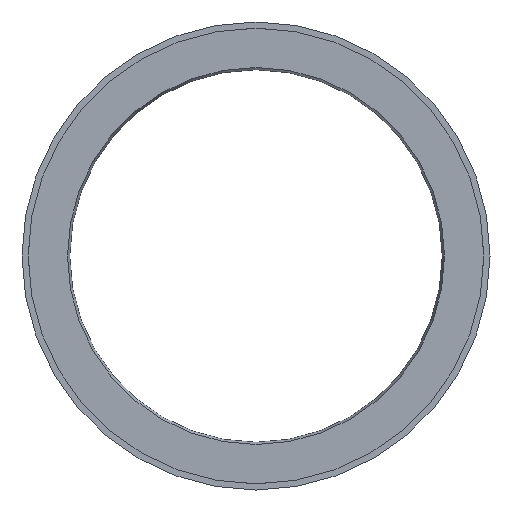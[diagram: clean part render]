
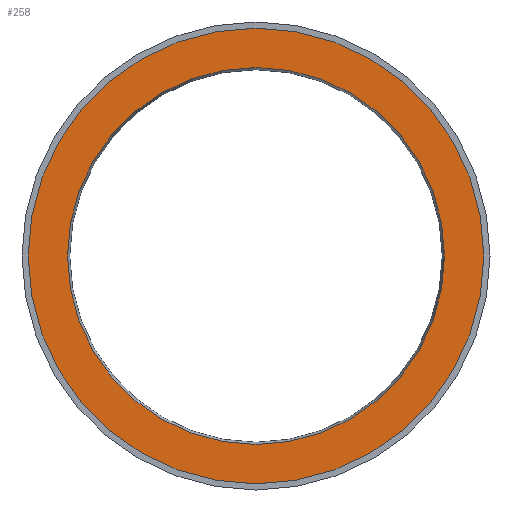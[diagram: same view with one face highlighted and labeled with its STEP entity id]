
A CAD part, left-side view. The second image highlights one B-rep face of the part: STEP entity #258.
In plain terms, the highlighted planar face has unit normal (-1, 0, 0).
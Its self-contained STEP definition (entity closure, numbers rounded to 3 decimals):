
#62=FACE_BOUND('',#88,.T.);
#66=PLANE('',#305);
#75=FACE_OUTER_BOUND('',#87,.T.);
#87=EDGE_LOOP('',(#223,#224));
#88=EDGE_LOOP('',(#225,#226));
#117=CIRCLE('',#295,30.364);
#118=CIRCLE('',#296,30.364);
#122=CIRCLE('',#302,36.7);
#123=CIRCLE('',#303,36.7);
#142=VERTEX_POINT('',#461);
#143=VERTEX_POINT('',#463);
#147=VERTEX_POINT('',#475);
#148=VERTEX_POINT('',#476);
#167=EDGE_CURVE('',#143,#142,#117,.T.);
#168=EDGE_CURVE('',#142,#143,#118,.T.);
#173=EDGE_CURVE('',#147,#148,#122,.T.);
#174=EDGE_CURVE('',#148,#147,#123,.T.);
#223=ORIENTED_EDGE('',*,*,#173,.T.);
#224=ORIENTED_EDGE('',*,*,#174,.T.);
#225=ORIENTED_EDGE('',*,*,#167,.T.);
#226=ORIENTED_EDGE('',*,*,#168,.T.);
#258=ADVANCED_FACE('',(#75,#62),#66,.F.);
#295=AXIS2_PLACEMENT_3D('',#464,#359,#360);
#296=AXIS2_PLACEMENT_3D('',#465,#361,#362);
#302=AXIS2_PLACEMENT_3D('',#477,#374,#375);
#303=AXIS2_PLACEMENT_3D('',#478,#376,#377);
#305=AXIS2_PLACEMENT_3D('',#482,#382,#383);
#359=DIRECTION('center_axis',(1.,0.,0.));
#360=DIRECTION('ref_axis',(0.,1.,0.));
#361=DIRECTION('center_axis',(1.,0.,0.));
#362=DIRECTION('ref_axis',(0.,1.,0.));
#374=DIRECTION('center_axis',(-1.,0.,0.));
#375=DIRECTION('ref_axis',(0.,0.,
1.));
#376=DIRECTION('center_axis',(-1.,0.,0.));
#377=DIRECTION('ref_axis',(0.,0.,
1.));
#382=DIRECTION('center_axis',(1.,0.,0.));
#383=DIRECTION('ref_axis',(0.,0.,-1.));
#461=CARTESIAN_POINT('',(0.,30.364,0.));
#463=CARTESIAN_POINT('',(0.,-30.364,0.));
#464=CARTESIAN_POINT('Origin',(0.,0.,
0.));
#465=CARTESIAN_POINT('Origin',(0.,0.,
0.));
#475=CARTESIAN_POINT('',(0.,0.,36.7));
#476=CARTESIAN_POINT('',(0.,0.,-36.7));
#477=CARTESIAN_POINT('Origin',(0.,0.,0.));
#478=CARTESIAN_POINT('Origin',(0.,0.,0.));
#482=CARTESIAN_POINT('Origin',(0.,36.7,0.));
